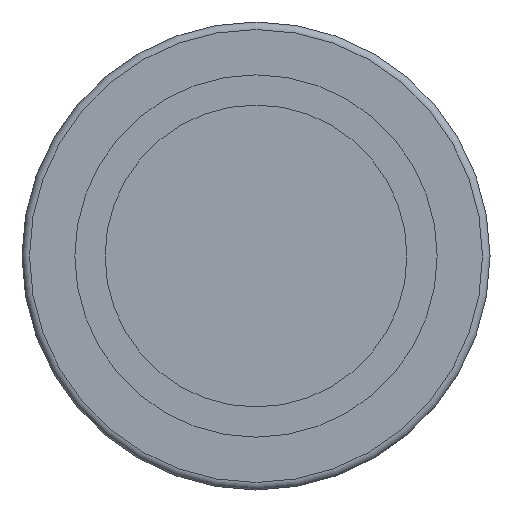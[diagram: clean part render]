
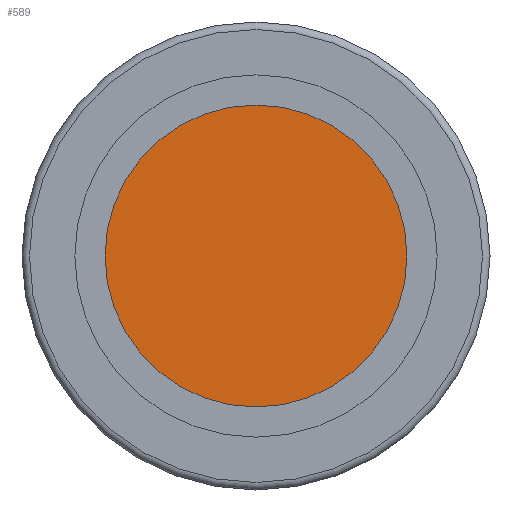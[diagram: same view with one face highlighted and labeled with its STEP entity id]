
A CAD part, left-side view. The second image highlights one B-rep face of the part: STEP entity #589.
In plain terms, the highlighted planar face has unit normal (-1, 0, 0).
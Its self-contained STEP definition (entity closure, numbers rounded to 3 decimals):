
#41=PLANE('',#659);
#297=ORIENTED_EDGE('',*,*,#377,.F.);
#377=EDGE_CURVE('',#433,#433,#457,.T.);
#433=VERTEX_POINT('',#1039);
#457=CIRCLE('',#657,2.);
#501=EDGE_LOOP('',(#297));
#545=FACE_BOUND('',#501,.T.);
#589=ADVANCED_FACE('',(#545),#41,.F.);
#657=AXIS2_PLACEMENT_3D('',#1038,#810,#811);
#659=AXIS2_PLACEMENT_3D('',#1041,#814,#815);
#810=DIRECTION('',(1.,0.,0.));
#811=DIRECTION('',(0.,0.,-1.));
#814=DIRECTION('',(1.,0.,0.));
#815=DIRECTION('',(0.,0.,-1.));
#1038=CARTESIAN_POINT('',(-0.8,0.,0.));
#1039=CARTESIAN_POINT('',(-0.8,0.,-2.));
#1041=CARTESIAN_POINT('',(-0.8,0.,0.));
